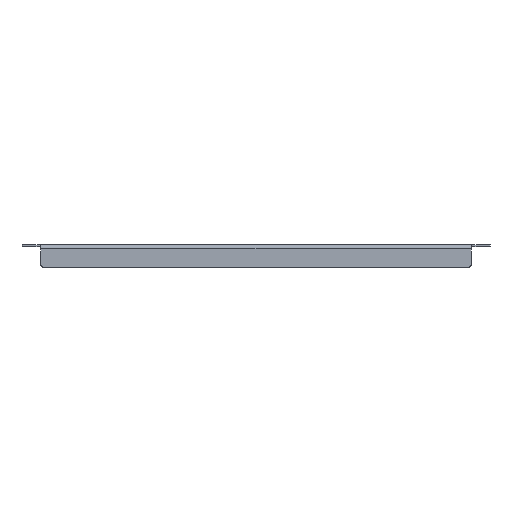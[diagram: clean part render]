
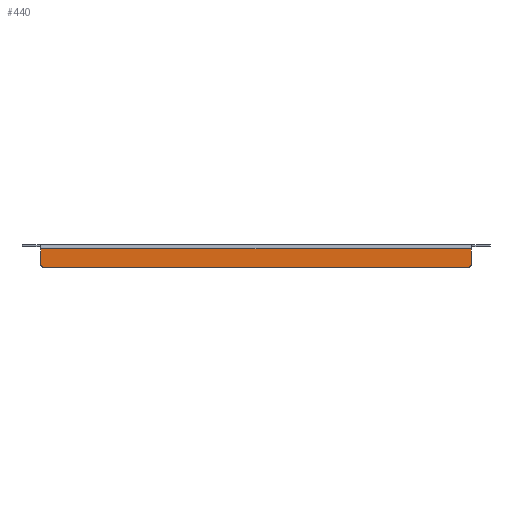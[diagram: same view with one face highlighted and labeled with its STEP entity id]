
A CAD part, left-side view. The second image highlights one B-rep face of the part: STEP entity #440.
In plain terms, the highlighted planar face has unit normal (-1, 0, 0).
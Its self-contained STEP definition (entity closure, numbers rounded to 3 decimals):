
#440=ADVANCED_FACE('',(#3512),#3514,.T.);
#3512=FACE_BOUND('',#3513,.T.);
#3513=EDGE_LOOP('',(#5887,#5888,#5889,#5890,#5891,#5892));
#3514=PLANE('',#3515);
#3515=AXIS2_PLACEMENT_3D('',#3516,#3517,#3518);
#3516=CARTESIAN_POINT('',(-87.5,0.,86.273));
#3517=DIRECTION('',(-1.,0.,0.));
#3518=DIRECTION('',(0.,1.,0.));
#5887=ORIENTED_EDGE('',*,*,#7092,.F.);
#5888=ORIENTED_EDGE('',*,*,#7093,.T.);
#5889=ORIENTED_EDGE('',*,*,#7094,.F.);
#5890=ORIENTED_EDGE('',*,*,#7095,.T.);
#5891=ORIENTED_EDGE('',*,*,#7070,.T.);
#5892=ORIENTED_EDGE('',*,*,#7096,.T.);
#7070=EDGE_CURVE('',#9000,#9001,#9002,.T.);
#7092=EDGE_CURVE('',#9036,#9037,#9038,.F.);
#7093=EDGE_CURVE('',#9036,#9039,#9040,.T.);
#7094=EDGE_CURVE('',#9041,#9039,#9042,.F.);
#7095=EDGE_CURVE('',#9041,#9000,#9043,.T.);
#7096=EDGE_CURVE('',#9001,#9037,#9044,.T.);
#9000=VERTEX_POINT('',#13604);
#9001=VERTEX_POINT('',#13605);
#9002=LINE('',#13606,#13607);
#9036=VERTEX_POINT('',#13692);
#9037=VERTEX_POINT('',#13693);
#9038=CIRCLE('',#13694,2.);
#9039=VERTEX_POINT('',#13698);
#9040=LINE('',#13699,#13700);
#9041=VERTEX_POINT('',#13702);
#9042=CIRCLE('',#13703,2.);
#9043=LINE('',#13707,#13708);
#9044=LINE('',#13710,#13711);
#13604=CARTESIAN_POINT('',(-87.5,-181.5,-2.));
#13605=CARTESIAN_POINT('',(-87.5,181.5,-2.));
#13606=CARTESIAN_POINT('',(-87.5,-181.5,-2.));
#13607=VECTOR('',#13608,1.);
#13608=DIRECTION('',(0.,1.,0.));
#13692=CARTESIAN_POINT('',(-87.5,179.5,-17.5));
#13693=CARTESIAN_POINT('',(-87.5,181.5,-15.5));
#13694=AXIS2_PLACEMENT_3D('',#13695,#13696,#13697);
#13695=CARTESIAN_POINT('',(-87.5,179.5,-15.5));
#13696=DIRECTION('',(-1.,0.,0.));
#13697=DIRECTION('',(0.,1.,0.));
#13698=CARTESIAN_POINT('',(-87.5,-179.5,-17.5));
#13699=CARTESIAN_POINT('',(-87.5,179.5,-17.5));
#13700=VECTOR('',#13701,1.);
#13701=DIRECTION('',(0.,-1.,0.));
#13702=CARTESIAN_POINT('',(-87.5,-181.5,-15.5));
#13703=AXIS2_PLACEMENT_3D('',#13704,#13705,#13706);
#13704=CARTESIAN_POINT('',(-87.5,-179.5,-15.5));
#13705=DIRECTION('',(-1.,0.,0.));
#13706=DIRECTION('',(0.,0.,-1.));
#13707=CARTESIAN_POINT('',(-87.5,-181.5,-15.5));
#13708=VECTOR('',#13709,1.);
#13709=DIRECTION('',(0.,0.,1.));
#13710=CARTESIAN_POINT('',(-87.5,181.5,-2.));
#13711=VECTOR('',#13712,1.);
#13712=DIRECTION('',(0.,0.,-1.));
